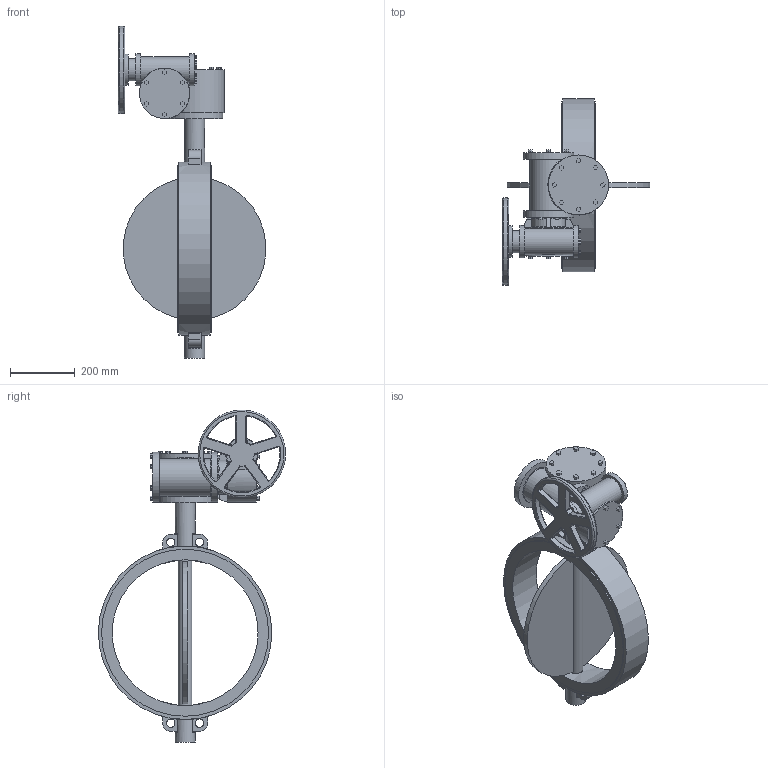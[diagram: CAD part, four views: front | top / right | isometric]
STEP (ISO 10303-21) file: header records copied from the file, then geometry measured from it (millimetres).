
FILE_DESCRIPTION(('STEP AP203'), '1');
FILE_NAME('青蜮铕 017W.YS_DN450_PN10_疱潴牝铕', '', ('UNSPECIFIED'), ('UNSPECIFIED'), 'ASCON STEP Converter 1.6', 'ASCON Math Kernel', '');
FILE_SCHEMA(('CONFIG_CONTROL_DESIGN'));
Length unit declared in the file: millimetre
Bounding box: 454.42 x 577.5 x 1024 mm (x, y, z)
Volume: 19361413.7 mm3; surface area: 1292820.9 mm2
Topology: 1 solids, 1 shells, 503 faces, 1276 edges, 826 vertices
Faces by surface type: plane 338, cylinder 105, torus 47, cone 8, bspline 5
Full cylindrical faces by diameter (mm): 15.294 x4, 18 x4, 26 x4, 42 x1, 62 x2, 67.98 x1, 80 x1, 96.98 x1, 100 x2, 155 x3, 175 x1, 185 x1, 270 x1, 450 x1, 515 x2, 535 x1
Entity records: 23402 total; most frequent: CARTESIAN_POINT 7310, ORIENTED_EDGE 2462, DIRECTION 2412, EDGE_CURVE 1231, LINE 852, VECTOR 852, VERTEX_POINT 822, AXIS2_PLACEMENT_3D 780
